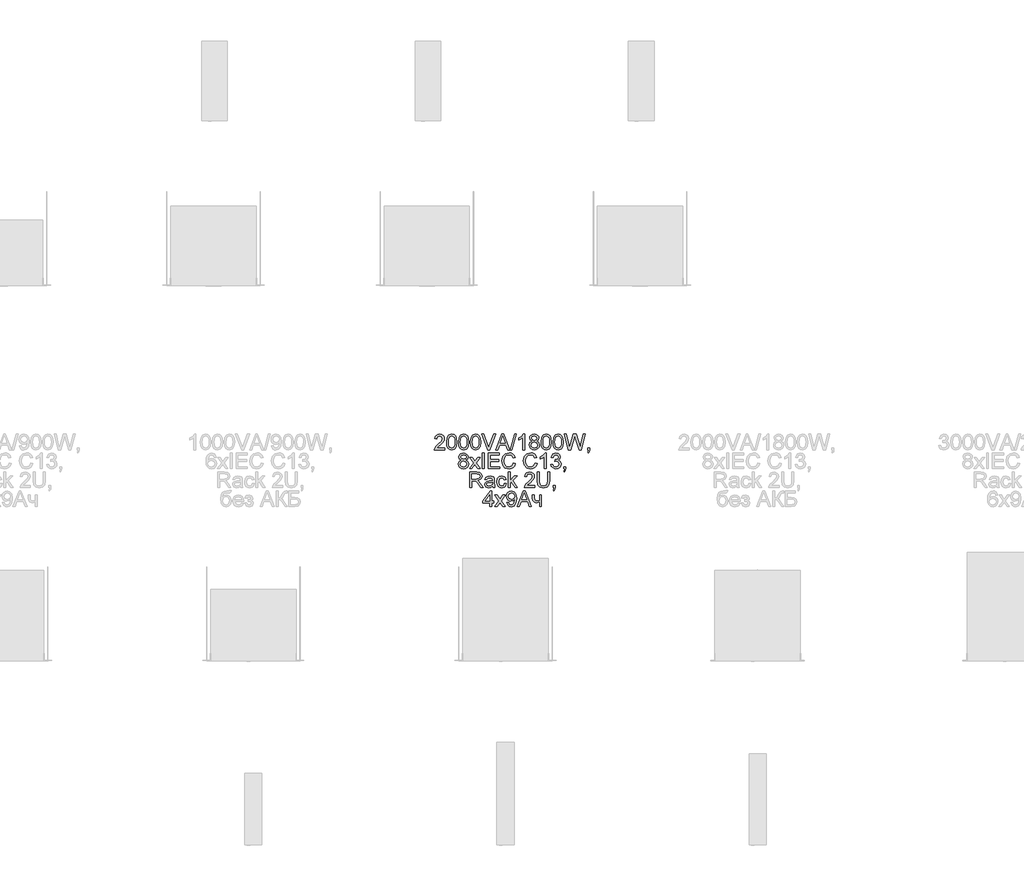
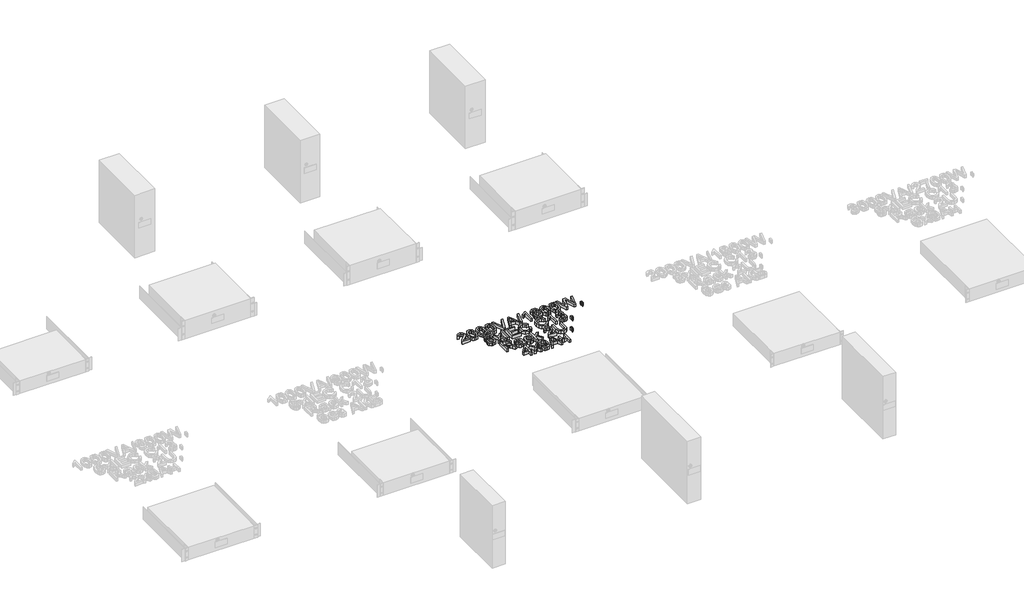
# One storey, part 67 of 74: 1 proxy.
"""IFC4 building model written with IfcOpenShell, lengths in millimetres."""

from ifc_helpers import new_model, si_unit, origin, origin_with_axes, place, context, project, spatial, polyline, outline, extrude, element, save

model = new_model("IFC4")

# Units and contexts
model_context = context("Model", 3, world=origin())
ifc_project = project(units=[si_unit("LENGTHUNIT", "METRE", prefix="MILLI")], contexts=[model_context])

# Site, building, storey
site = spatial("IfcSite", under=ifc_project)
building = spatial("IfcBuilding", under=site)
storey = spatial("IfcBuildingStorey", under=building, Name="Этаж 01", Elevation=0.0)

# Proxy
placement = place(None, origin())
element("IfcBuildingElementProxy", 1, Name="80 мм Arial", ObjectType="80 мм Arial", at=placement, inside=storey, context=model_context, shape_type="SweptSolid", body=[
    extrude(outline(polyline([(3639.1131351, 2272.4107725), (3639.1131351, 2262.3651415), (3586.3735723, 2262.3651415), (3587.4526928, 2269.2911332), (3593.5546288, 2279.954806), (3606.1312879, 2291.5994974), (3623.4756977, 2308.3356756), (3627.8118002, 2319.715492), (3623.7209524, 2328.9272572), (3613.0376593, 2332.6845586), (3601.9030975, 2329.0155489), (3597.6749071, 2318.871816), (3587.6292761, 2320.1275199), (3590.0646549, 2329.8445096), (3595.3302726, 2336.9421796), (3603.1514438, 2341.2831871), (3613.2534834, 2342.7301896), (3623.4290994, 2341.1213191), (3631.2355553, 2336.2947073), (3636.2019622, 2329.0842202), (3637.8574312, 2320.3237236), (3636.0719773, 2310.7980325), (3630.1368144, 2300.9486052), (3615.7452708, 2287.1849135), (3604.188871, 2277.5218797), (3599.6565648, 2272.4107725), (3639.1131351, 2272.4107725)])), origin_with_axes(), (0.0, 0.0, 1.0), 20.0),
    extrude(outline(polyline([(3649.1587661, 2301.9001933), (3652.1116322, 2325.0228029), (3660.881939, 2338.3548465), (3675.5285475, 2342.7301896), (3687.2615306, 2340.1403004), (3695.3647447, 2332.6747484), (3700.0736342, 2320.7848024), (3701.8983289, 2301.9001933), (3698.9748933, 2278.8756855), (3690.2340171, 2265.5142114), (3675.5285475, 2261.1094377), (3665.090509, 2263.022424), (3657.1638783, 2268.7613832), (3651.1600442, 2282.3533966), (3649.1587661, 2301.9001933)]), holes=[polyline([(3659.2043971, 2301.9198136), (3660.3816195, 2286.1180557), (3663.9132867, 2276.9725093), (3675.5285475, 2271.1550687), (3687.1438084, 2276.9921297), (3690.6754755, 2286.1425811), (3691.8526979, 2301.9198136), (3690.7147163, 2317.3659524), (3687.3007714, 2326.5826226), (3682.0523216, 2331.1590746), (3675.4108253, 2332.6845586), (3664.0702496, 2327.3085764), (3660.4208602, 2317.5180102), (3659.2043971, 2301.9198136)])]), origin_with_axes(), (0.0, 0.0, 1.0), 20.0),
    extrude(outline(polyline([(3710.6882561, 2301.9001933), (3713.6411222, 2325.0228029), (3722.411429, 2338.3548465), (3737.0580375, 2342.7301896), (3748.7910206, 2340.1403004), (3756.8942347, 2332.6747484), (3761.6031242, 2320.7848024), (3763.4278189, 2301.9001933), (3760.5043833, 2278.8756855), (3751.7635071, 2265.5142114), (3737.0580375, 2261.1094377), (3726.619999, 2263.022424), (3718.6933683, 2268.7613832), (3712.6895341, 2282.3533966), (3710.6882561, 2301.9001933)]), holes=[polyline([(3720.7338871, 2301.9198136), (3721.9111095, 2286.1180557), (3725.4427766, 2276.9725093), (3737.0580375, 2271.1550687), (3748.6732983, 2276.9921297), (3752.2049655, 2286.1425811), (3753.3821879, 2301.9198136), (3752.2442062, 2317.3659524), (3748.8302613, 2326.5826226), (3743.5818115, 2331.1590746), (3736.9403152, 2332.6845586), (3725.5997396, 2327.3085764), (3721.9503502, 2317.5180102), (3720.7338871, 2301.9198136)])]), origin_with_axes(), (0.0, 0.0, 1.0), 20.0),
    extrude(outline(polyline([(3772.217746, 2301.9001933), (3775.1706122, 2325.0228029), (3783.9409189, 2338.3548465), (3798.5875274, 2342.7301896), (3810.3205105, 2340.1403004), (3818.4237246, 2332.6747484), (3823.1326142, 2320.7848024), (3824.9573089, 2301.9001933), (3822.0338733, 2278.8756855), (3813.2929971, 2265.5142114), (3798.5875274, 2261.1094377), (3788.149489, 2263.022424), (3780.2228582, 2268.7613832), (3774.2190241, 2282.3533966), (3772.217746, 2301.9001933)]), holes=[polyline([(3782.263377, 2301.9198136), (3783.4405994, 2286.1180557), (3786.9722666, 2276.9725093), (3798.5875274, 2271.1550687), (3810.2027883, 2276.9921297), (3813.7344555, 2286.1425811), (3814.9116778, 2301.9198136), (3813.7736962, 2317.3659524), (3810.3597513, 2326.5826226), (3805.1113015, 2331.1590746), (3798.4698052, 2332.6845586), (3787.1292296, 2327.3085764), (3783.4798402, 2317.5180102), (3782.263377, 2301.9198136)])]), origin_with_axes(), (0.0, 0.0, 1.0), 20.0),
    extrude(outline(polyline([(3902.2419584, 2262.3651415), (3934.3212684, 2342.7301896), (3942.875751, 2342.7301896), (3974.955061, 2262.3651415), (3964.3404392, 2262.3651415), (3955.1384842, 2287.4792191), (3922.0389148, 2287.4792191), (3912.8565802, 2262.3651415), (3902.2419584, 2262.3651415)]), holes=[polyline([(3925.727545, 2297.5248501), (3951.4694745, 2297.5248501), (3944.2295568, 2317.2825658), (3938.5985097, 2332.6845586), (3933.5953146, 2319.0091586), (3925.727545, 2297.5248501)])]), origin_with_axes(), (0.0, 0.0, 1.0), 20.0),
    extrude(outline(polyline([(3861.2549991, 2262.3651415), (3829.2737909, 2342.7301896), (3840.0257554, 2342.7301896), (3861.4315824, 2284.8304687), (3865.7676849, 2271.7829206), (3870.0449262, 2284.8304687), (3891.5096143, 2342.7301896), (3902.2615788, 2342.7301896), (3871.6341764, 2262.3651415), (3861.2549991, 2262.3651415)])), origin_with_axes(), (0.0, 0.0, 1.0), 20.0),
    extrude(outline(polyline([(3976.897478, 2262.3651415), (3999.5001477, 2342.7301896), (4008.5647601, 2342.7301896), (3985.9620903, 2262.3651415), (3976.897478, 2262.3651415)])), origin_with_axes(), (0.0, 0.0, 1.0), 20.0),
    extrude(outline(polyline([(4050.9840067, 2262.3651415), (4040.9383757, 2262.3651415), (4040.9383757, 2324.9933724), (4031.4224947, 2318.2145335), (4020.8471137, 2313.142667), (4020.8471137, 2322.6389276), (4035.5722036, 2332.0370863), (4044.5092836, 2342.7301896), (4050.9840067, 2342.7301896), (4050.9840067, 2262.3651415)])), origin_with_axes(), (0.0, 0.0, 1.0), 20.0),
    extrude(outline(polyline([(4089.4791787, 2306.6287032), (4080.3262746, 2312.8679818), (4077.3537881, 2322.5800665), (4078.9724689, 2330.4331208), (4083.8285112, 2336.9225592), (4091.3774498, 2341.278282), (4101.0748192, 2342.7301896), (4110.8310497, 2341.2439464), (4118.4780901, 2336.7852166), (4123.4224241, 2330.1927713), (4125.0705354, 2322.3053813), (4122.1372897, 2312.8385513), (4113.2394505, 2306.6287032), (4123.9227436, 2298.7511234), (4127.5819432, 2285.7526262), (4125.7670587, 2276.1484536), (4120.3224051, 2268.2120127), (4111.9150753, 2262.8850814), (4101.2121618, 2261.1094377), (4090.5092483, 2262.8924391), (4082.1019184, 2268.2414433), (4076.6572649, 2276.2539131), (4074.8423804, 2286.0273115), (4078.6487327, 2299.3299244), (4089.4791787, 2306.6287032)]), holes=[polyline([(4087.3994191, 2322.2857609), (4090.9605168, 2314.3983709), (4101.329884, 2311.3375927), (4111.4932373, 2314.3787506), (4115.0249044, 2321.8344923), (4111.375515, 2329.5551091), (4101.2121618, 2332.6845586), (4091.019378, 2329.6237804), (4087.3994191, 2322.2857609)]), polyline([(4084.8880114, 2286.3804782), (4086.5655533, 2278.8168244), (4092.5007161, 2273.1563467), (4101.2906433, 2271.1550687), (4113.2590708, 2275.3636387), (4117.5363122, 2286.0665522), (4113.1217282, 2296.9754796), (4100.9570969, 2301.2919617), (4089.1358221, 2297.0343408), (4084.8880114, 2286.3804782)])]), origin_with_axes(), (0.0, 0.0, 1.0), 20.0),
    extrude(outline(polyline([(4136.3718703, 2301.9001933), (4139.3247365, 2325.0228029), (4148.0950432, 2338.3548465), (4162.7416517, 2342.7301896), (4174.4746348, 2340.1403004), (4182.5778489, 2332.6747484), (4187.2867385, 2320.7848024), (4189.1114332, 2301.9001933), (4186.1879976, 2278.8756855), (4177.4471214, 2265.5142114), (4162.7416517, 2261.1094377), (4152.3036133, 2263.022424), (4144.3769825, 2268.7613832), (4138.3731484, 2282.3533966), (4136.3718703, 2301.9001933)]), holes=[polyline([(4146.4175013, 2301.9198136), (4147.5947237, 2286.1180557), (4151.1263909, 2276.9725093), (4162.7416517, 2271.1550687), (4174.3569126, 2276.9921297), (4177.8885798, 2286.1425811), (4179.0658021, 2301.9198136), (4177.9278205, 2317.3659524), (4174.5138756, 2326.5826226), (4169.2654258, 2331.1590746), (4162.6239295, 2332.6845586), (4151.2833539, 2327.3085764), (4147.6339645, 2317.5180102), (4146.4175013, 2301.9198136)])]), origin_with_axes(), (0.0, 0.0, 1.0), 20.0),
    extrude(outline(polyline([(4197.9013603, 2301.9001933), (4200.8542264, 2325.0228029), (4209.6245332, 2338.3548465), (4224.2711417, 2342.7301896), (4236.0041248, 2340.1403004), (4244.1073389, 2332.6747484), (4248.8162284, 2320.7848024), (4250.6409231, 2301.9001933), (4247.7174875, 2278.8756855), (4238.9766113, 2265.5142114), (4224.2711417, 2261.1094377), (4213.8331032, 2263.022424), (4205.9064725, 2268.7613832), (4199.9026383, 2282.3533966), (4197.9013603, 2301.9001933)]), holes=[polyline([(4207.9469913, 2301.9198136), (4209.1242137, 2286.1180557), (4212.6558808, 2276.9725093), (4224.2711417, 2271.1550687), (4235.8864026, 2276.9921297), (4239.4180697, 2286.1425811), (4240.5952921, 2301.9198136), (4239.4573105, 2317.3659524), (4236.0433656, 2326.5826226), (4230.7949158, 2331.1590746), (4224.1534195, 2332.6845586), (4212.8128438, 2327.3085764), (4209.1634544, 2317.5180102), (4207.9469913, 2301.9198136)])]), origin_with_axes(), (0.0, 0.0, 1.0), 20.0),
    extrude(outline(polyline([(4277.5796954, 2262.3651415), (4255.6637386, 2342.7301896), (4266.0232956, 2342.7301896), (4278.7372974, 2289.9121453), (4282.661372, 2273.6076153), (4286.8601318, 2288.0285895), (4302.7918748, 2342.7301896), (4317.7229787, 2342.7301896), (4329.2989988, 2303.0774157), (4337.9123426, 2273.6076153), (4341.7186949, 2289.4412564), (4354.5504189, 2342.7301896), (4364.9099759, 2342.7301896), (4342.9743988, 2262.3651415), (4332.2420547, 2262.3651415), (4312.9748484, 2324.3655204), (4310.2868573, 2333.018105), (4307.2653198, 2322.5996869), (4289.7050859, 2262.3651415), (4277.5796954, 2262.3651415)])), origin_with_axes(), (0.0, 0.0, 1.0), 20.0),
    extrude(outline(polyline([(4376.2113108, 2262.3651415), (4376.2113108, 2272.4107725), (4386.2569418, 2272.4107725), (4386.2569418, 2262.3651415), (4384.4518675, 2252.0938762), (4378.7227186, 2246.0409911), (4376.2113108, 2249.8081028), (4379.8999409, 2254.1442052), (4381.2145059, 2262.3651415), (4376.2113108, 2262.3651415)])), origin_with_axes(), (0.0, 0.0, 1.0), 20.0),
    extrude(outline(polyline([(3724.6972024, 2209.0488489), (3715.5442984, 2215.2881276), (3712.5718119, 2225.0002122), (3714.1904927, 2232.8532665), (3719.046535, 2239.3427049), (3726.5954735, 2243.6984278), (3736.2928429, 2245.1503354), (3746.0490734, 2243.6640921), (3753.6961138, 2239.2053623), (3758.6404479, 2232.612917), (3760.2885592, 2224.725527), (3757.3553134, 2215.258697), (3748.4574742, 2209.0488489), (3759.1407674, 2201.1712691), (3762.799967, 2188.172772), (3760.9850824, 2178.5685993), (3755.5404289, 2170.6321584), (3747.1330991, 2165.3052271), (3736.4301855, 2163.5295834), (3725.727272, 2165.3125848), (3717.3199422, 2170.661589), (3711.8752886, 2178.6740588), (3710.0604041, 2188.4474572), (3713.8667565, 2201.7500701), (3724.6972024, 2209.0488489)]), holes=[polyline([(3722.6174429, 2224.7059066), (3726.1785406, 2216.8185166), (3736.5479078, 2213.7577385), (3746.711261, 2216.7988963), (3750.2429282, 2224.254638), (3746.5935388, 2231.9752549), (3736.4301855, 2235.1047044), (3726.2374017, 2232.0439262), (3722.6174429, 2224.7059066)]), polyline([(3720.1060351, 2188.8006239), (3721.783577, 2181.2369701), (3727.7187399, 2175.5764924), (3736.508667, 2173.5752144), (3748.4770946, 2177.7837844), (3752.7543359, 2188.4866979), (3748.339752, 2199.3956254), (3736.1751207, 2203.7121074), (3724.3538459, 2199.4544865), (3720.1060351, 2188.8006239)])]), origin_with_axes(), (0.0, 0.0, 1.0), 20.0),
    extrude(outline(polyline([(3767.8227825, 2164.7852873), (3789.2874706, 2194.4512913), (3769.0784863, 2223.8033695), (3781.1646362, 2223.8033695), (3790.9159616, 2209.6767009), (3795.4678881, 2203.005774), (3799.4115831, 2208.4602377), (3810.5167143, 2223.8033695), (3822.6028641, 2223.8033695), (3801.3736204, 2194.4512913), (3821.8180492, 2164.7852873), (3809.7318994, 2164.7852873), (3797.4299254, 2182.6202064), (3795.1735825, 2185.8771883), (3779.9089323, 2164.7852873), (3767.8227825, 2164.7852873)])), origin_with_axes(), (0.0, 0.0, 1.0), 20.0),
    extrude(outline(polyline([(3833.1193841, 2164.7852873), (3833.1193841, 2245.1503354), (3843.1650151, 2245.1503354), (3843.1650151, 2164.7852873), (3833.1193841, 2164.7852873)])), origin_with_axes(), (0.0, 0.0, 1.0), 20.0),
    extrude(outline(polyline([(3863.2562771, 2164.7852873), (3863.2562771, 2245.1503354), (3921.0186554, 2245.1503354), (3921.0186554, 2235.1047044), (3873.3019081, 2235.1047044), (3873.3019081, 2211.2463307), (3918.5072477, 2211.2463307), (3918.5072477, 2201.2006997), (3873.3019081, 2201.2006997), (3873.3019081, 2174.8309183), (3922.2743593, 2174.8309183), (3922.2743593, 2164.7852873), (3863.2562771, 2164.7852873)])), origin_with_axes(), (0.0, 0.0, 1.0), 20.0),
    extrude(outline(polyline([(3993.8494803, 2193.3525505), (4003.8951113, 2190.7626612), (3999.2597982, 2179.0566561), (3991.9855449, 2170.504626), (3982.4304232, 2165.273344), (3970.9525049, 2163.5295834), (3950.0469974, 2168.8074637), (3937.7842642, 2184.0917344), (3933.5756942, 2205.5760429), (3938.3336347, 2227.4135181), (3951.8618819, 2241.5696173), (3971.168329, 2246.4060392), (3982.182716, 2244.8413145), (3991.2890216, 2240.1471402), (3998.2027506, 2232.612917), (4002.6394074, 2222.5280452), (3992.5937764, 2220.1343597), (3984.3532197, 2232.4853846), (3970.7759216, 2236.3604082), (3955.0600027, 2232.0635465), (3946.1817839, 2220.5267672), (3943.6213252, 2205.5956633), (3946.6526729, 2188.2904942), (3956.0900723, 2177.234414), (3969.9518659, 2173.5752144), (3985.3244282, 2178.5587892), (3993.8494803, 2193.3525505)])), origin_with_axes(), (0.0, 0.0, 1.0), 20.0),
    extrude(outline(polyline([(4105.6071253, 2193.3525505), (4115.6527564, 2190.7626612), (4111.0174432, 2179.0566561), (4103.7431899, 2170.504626), (4094.1880682, 2165.273344), (4082.71015, 2163.5295834), (4061.8046424, 2168.8074637), (4049.5419093, 2184.0917344), (4045.3333393, 2205.5760429), (4050.0912797, 2227.4135181), (4063.619527, 2241.5696173), (4082.9259741, 2246.4060392), (4093.940361, 2244.8413145), (4103.0466667, 2240.1471402), (4109.9603956, 2232.612917), (4114.3970525, 2222.5280452), (4104.3514215, 2220.1343597), (4096.1108648, 2232.4853846), (4082.5335666, 2236.3604082), (4066.8176478, 2232.0635465), (4057.939429, 2220.5267672), (4055.3789703, 2205.5956633), (4058.4103179, 2188.2904942), (4067.8477174, 2177.234414), (4081.7095109, 2173.5752144), (4097.0820732, 2178.5587892), (4105.6071253, 2193.3525505)])), origin_with_axes(), (0.0, 0.0, 1.0), 20.0),
    extrude(outline(polyline([(4163.3695037, 2164.7852873), (4153.3238727, 2164.7852873), (4153.3238727, 2227.4135181), (4143.8079917, 2220.6346792), (4133.2326106, 2215.5628128), (4133.2326106, 2225.0590733), (4147.9577006, 2234.457232), (4156.8947806, 2245.1503354), (4163.3695037, 2245.1503354), (4163.3695037, 2164.7852873)])), origin_with_axes(), (0.0, 0.0, 1.0), 20.0),
    extrude(outline(polyline([(4187.2278773, 2186.1322532), (4197.2735084, 2187.387957), (4202.8162637, 2176.8125759), (4213.1856309, 2173.5752144), (4225.389503, 2178.0290391), (4229.9218092, 2189.0556887), (4225.4287437, 2199.4446763), (4214.0096866, 2203.5551445), (4206.9659727, 2202.4564036), (4208.0843339, 2212.5020346), (4209.6932045, 2212.3843123), (4221.0926413, 2215.2685072), (4226.1546975, 2224.1369158), (4222.4856878, 2231.9948752), (4213.0286679, 2235.1047044), (4203.4539259, 2231.9654447), (4198.5292122, 2222.5476656), (4188.4835812, 2223.8033695), (4196.7045175, 2239.558529), (4212.6755012, 2245.1503354), (4224.7910816, 2242.393673), (4233.2670828, 2234.8594497), (4236.2003285, 2224.725527), (4233.4142356, 2215.4647109), (4225.1736789, 2208.8134044), (4236.121847, 2201.9462739), (4239.9674402, 2188.8791054), (4238.0446436, 2179.0885392), (4232.2762539, 2170.9068437), (4223.5697134, 2165.3738984), (4212.8324642, 2163.5295834), (4203.1203795, 2165.1041183), (4195.2133692, 2169.8277231), (4189.7147596, 2177.0529255), (4187.2278773, 2186.1322532)])), origin_with_axes(), (0.0, 0.0, 1.0), 20.0),
    extrude(outline(polyline([(4253.7801828, 2164.7852873), (4253.7801828, 2174.8309183), (4263.8258138, 2174.8309183), (4263.8258138, 2164.7852873), (4262.0207395, 2154.5140219), (4256.2915906, 2148.4611369), (4253.7801828, 2152.2282485), (4257.468813, 2156.5643509), (4258.7833779, 2164.7852873), (4253.7801828, 2164.7852873)])), origin_with_axes(), (0.0, 0.0, 1.0), 20.0),
    extrude(outline(polyline([(3769.0784863, 2067.205433), (3769.0784863, 2147.5704811), (3803.7084448, 2147.5704811), (3819.7873406, 2145.4024299), (3828.5772677, 2137.730864), (3831.8636802, 2125.5760429), (3826.4190267, 2111.0962075), (3809.5945567, 2103.6208454), (3815.3040853, 2099.3239837), (3823.4465401, 2088.9840471), (3836.8472549, 2067.205433), (3825.173133, 2067.205433), (3814.7154741, 2083.8631297), (3807.1616305, 2094.8897794), (3801.8543196, 2100.0989884), (3797.0767587, 2102.0119748), (3791.2495079, 2102.3651415), (3779.1241174, 2102.3651415), (3779.1241174, 2067.205433), (3769.0784863, 2067.205433)]), holes=[polyline([(3779.1241174, 2112.4107725), (3801.6090649, 2112.4107725), (3813.077173, 2113.8332496), (3819.5911368, 2118.3851761), (3821.8180492, 2125.2032558), (3817.5702384, 2134.052044), (3804.140093, 2137.5248501), (3779.1241174, 2137.5248501), (3779.1241174, 2112.4107725)])]), origin_with_axes(), (0.0, 0.0, 1.0), 20.0),
    extrude(outline(polyline([(3885.8589469, 2074.7396562), (3876.1174317, 2067.9313868), (3865.355657, 2065.9497291), (3850.7679096, 2070.7174798), (3845.6764228, 2082.9017314), (3847.5992194, 2090.8479825), (3852.6514655, 2096.6163722), (3859.6853692, 2099.9125949), (3868.3771945, 2101.4233636), (3885.8000858, 2104.8765493), (3885.8589469, 2107.1132718), (3883.0924743, 2114.5297728), (3871.9873431, 2117.4335881), (3861.8239899, 2115.5009813), (3856.9777577, 2108.6436609), (3846.9321267, 2109.8993648), (3851.2780393, 2119.7095513), (3860.0287257, 2125.4583206), (3873.2822877, 2127.4792191), (3885.4567292, 2125.6937651), (3892.33367, 2121.2105099), (3895.4140686, 2114.3924302), (3895.9045779, 2105.6025031), (3895.9045779, 2093.1043254), (3896.4147076, 2075.6520036), (3898.4159857, 2067.205433), (3888.3703546, 2067.205433), (3885.8589469, 2074.7396562)]), holes=[polyline([(3885.8589469, 2094.8309183), (3869.6525187, 2091.7505197), (3861.0097444, 2090.1220287), (3857.09548, 2087.4732784), (3855.7220538, 2083.6080649), (3858.7141607, 2078.1732215), (3867.4942777, 2075.9953601), (3877.6576309, 2078.3988558), (3884.2108356, 2084.2162964), (3885.8000858, 2091.9859642), (3885.8589469, 2094.8309183)])]), origin_with_axes(), (0.0, 0.0, 1.0), 20.0),
    extrude(outline(polyline([(3947.3884369, 2088.5523989), (3957.4340679, 2087.296695), (3954.6332596, 2078.3620676), (3949.3700945, 2071.6102067), (3933.4383516, 2065.9497291), (3922.7526059, 2067.9240291), (3914.3967795, 2073.8469293), (3909.0036295, 2083.4584595), (3907.2059128, 2096.49865), (3910.2765012, 2113.1857773), (3919.6354191, 2123.9083112), (3933.301009, 2127.4792191), (3948.5754694, 2122.5741258), (3956.178364, 2108.6436609), (3946.132733, 2107.387957), (3941.4728944, 2114.9123701), (3933.3794905, 2117.4335881), (3921.7347991, 2112.4696337), (3917.2515438, 2096.7733352), (3921.6366972, 2080.9298839), (3933.1048053, 2075.9953601), (3942.5716353, 2079.0757587), (3947.3884369, 2088.5523989)])), origin_with_axes(), (0.0, 0.0, 1.0), 20.0),
    extrude(outline(polyline([(3966.223995, 2067.205433), (3966.223995, 2147.5704811), (3976.269626, 2147.5704811), (3976.269626, 2104.38604), (3998.7938143, 2126.2235152), (4012.6850385, 2126.2235152), (3989.8861649, 2104.1113547), (4013.9407423, 2067.205433), (4002.2077592, 2067.205433), (3982.685488, 2097.1265019), (3976.269626, 2090.9068437), (3976.269626, 2067.205433), (3966.223995, 2067.205433)])), origin_with_axes(), (0.0, 0.0, 1.0), 20.0),
    extrude(outline(polyline([(4103.0957176, 2077.251064), (4103.0957176, 2067.205433), (4050.3561548, 2067.205433), (4051.4352753, 2074.1314247), (4057.5372113, 2084.7950974), (4070.1138704, 2096.4397889), (4087.4582802, 2113.1759671), (4091.7943827, 2124.5557835), (4087.7035349, 2133.7675486), (4077.0202418, 2137.5248501), (4065.88568, 2133.8558403), (4061.6574897, 2123.7121074), (4051.6118586, 2124.9678113), (4054.0472374, 2134.6848011), (4059.3128551, 2141.782471), (4067.1340263, 2146.1234786), (4077.2360659, 2147.5704811), (4087.4116819, 2145.9616105), (4095.2181378, 2141.1349987), (4100.1845447, 2133.9245116), (4101.8400137, 2125.164015), (4100.0545598, 2115.6383239), (4094.1193969, 2105.7888966), (4079.7278533, 2092.0252049), (4068.1714535, 2082.3621712), (4063.6391473, 2077.251064), (4103.0957176, 2077.251064)])), origin_with_axes(), (0.0, 0.0, 1.0), 20.0),
    extrude(outline(polyline([(4169.6480231, 2147.5704811), (4179.6936541, 2147.5704811), (4179.6936541, 2101.2075395), (4176.9664222, 2081.9893841), (4167.1366153, 2070.413364), (4148.4972609, 2065.9497291), (4130.1424019, 2069.834563), (4119.9594282, 2081.0868469), (4116.9084602, 2101.2075395), (4116.9084602, 2147.5704811), (4126.9540912, 2147.5704811), (4126.9540912, 2101.5607062), (4128.9357489, 2086.247005), (4135.7440184, 2078.6637309), (4147.555483, 2075.9953601), (4157.7727923, 2077.3148302), (4164.5663464, 2081.2732405), (4168.3776039, 2088.9840471), (4169.6480231, 2101.5607062), (4169.6480231, 2147.5704811)])), origin_with_axes(), (0.0, 0.0, 1.0), 20.0),
    extrude(outline(polyline([(4198.5292122, 2067.205433), (4198.5292122, 2077.251064), (4208.5748432, 2077.251064), (4208.5748432, 2067.205433), (4206.7697689, 2056.9341677), (4201.04062, 2050.8812826), (4198.5292122, 2054.6483942), (4202.2178424, 2058.9844967), (4203.5324074, 2067.205433), (4198.5292122, 2067.205433)])), origin_with_axes(), (0.0, 0.0, 1.0), 20.0),
    extrude(outline(polyline([(3872.0462042, 1969.6255787), (3872.0462042, 1988.4611369), (3835.6307918, 1988.4611369), (3835.6307918, 1998.5067679), (3874.557612, 2048.7349229), (3882.0918353, 2048.7349229), (3882.0918353, 1998.5067679), (3892.1374663, 1998.5067679), (3892.1374663, 1988.4611369), (3882.0918353, 1988.4611369), (3882.0918353, 1969.6255787), (3872.0462042, 1969.6255787)]), holes=[polyline([(3872.0462042, 1998.5067679), (3872.0462042, 2029.5461981), (3847.9916269, 1998.5067679), (3872.0462042, 1998.5067679)])]), origin_with_axes(), (0.0, 0.0, 1.0), 20.0),
    extrude(outline(polyline([(3897.1602818, 1969.6255787), (3918.6249699, 1999.2915828), (3898.4159857, 2028.6436609), (3910.5021355, 2028.6436609), (3920.2534609, 2014.5169923), (3924.8053874, 2007.8460655), (3928.7490824, 2013.3005292), (3939.8542136, 2028.6436609), (3951.9403634, 2028.6436609), (3930.7111197, 1999.2915828), (3951.1555485, 1969.6255787), (3939.0693987, 1969.6255787), (3926.7674248, 1987.4604978), (3924.5110818, 1990.7174798), (3909.2464316, 1969.6255787), (3897.1602818, 1969.6255787)])), origin_with_axes(), (0.0, 0.0, 1.0), 20.0),
    extrude(outline(polyline([(3958.6897717, 1989.7168407), (3968.7354028, 1990.9725446), (3973.2480886, 1981.3879924), (3981.8025712, 1978.4155058), (3989.9352159, 1980.3284922), (3995.4485407, 1985.4395994), (3998.7349532, 1994.1706654), (4000.1868608, 2005.825167), (4000.1279997, 2007.7872043), (3992.0934569, 2000.1744996), (3981.0766174, 1997.251064), (3971.9163557, 1999.0365179), (3964.2913883, 2004.3928798), (3959.148398, 2012.6677721), (3957.4340679, 2023.2088176), (3959.2317846, 2034.0981246), (3964.6249346, 2042.6329869), (3972.7256961, 2048.1512168), (3982.6462473, 2049.9906268), (3996.9593094, 2045.791867), (4006.8087367, 2033.8234394), (4010.1736307, 2011.3384919), (4006.8185469, 1986.9405579), (3996.8415872, 1973.1180051), (3981.3316823, 1968.3698748), (3972.742864, 1969.770279), (3965.8904487, 1973.9714913), (3958.6897717, 1989.7168407)]), holes=[polyline([(4000.1279997, 2023.444262), (3995.7918972, 2035.4911711), (3984.2747382, 2039.9449958), (3972.1885884, 2035.1478146), (3967.4796989, 2022.7183082), (3971.9335236, 2011.5837465), (3984.000053, 2007.296695), (3995.5858833, 2011.5837465), (4000.1279997, 2023.444262)])]), origin_with_axes(), (0.0, 0.0, 1.0), 20.0),
    extrude(outline(polyline([(4013.3717515, 1969.6255787), (4045.4510615, 2049.9906268), (4054.0055442, 2049.9906268), (4086.0848541, 1969.6255787), (4075.4702323, 1969.6255787), (4066.2682773, 1994.7396562), (4033.1687079, 1994.7396562), (4023.9863733, 1969.6255787), (4013.3717515, 1969.6255787)]), holes=[polyline([(4036.8573381, 2004.7852873), (4062.5992676, 2004.7852873), (4055.3593499, 2024.5430029), (4049.7283028, 2039.9449958), (4044.7251077, 2026.2695958), (4036.8573381, 2004.7852873)])]), origin_with_axes(), (0.0, 0.0, 1.0), 20.0),
    extrude(outline(polyline([(4091.7943827, 2028.6436609), (4101.8400137, 2028.6436609), (4101.8400137, 2017.3227056), (4102.6542592, 2006.7080838), (4106.5685236, 2000.9593145), (4114.3381914, 1998.5067679), (4128.2097951, 2001.5479257), (4128.2097951, 2028.6436609), (4138.2554261, 2028.6436609), (4138.2554261, 1969.6255787), (4128.2097951, 1969.6255787), (4128.2097951, 1991.9143225), (4111.6502002, 1988.4611369), (4100.2605737, 1992.0614753), (4093.5602163, 2000.880833), (4091.7943827, 2012.3587513), (4091.7943827, 2028.6436609)])), origin_with_axes(), (0.0, 0.0, 1.0), 20.0),
])

save(model, "model.ifc")
